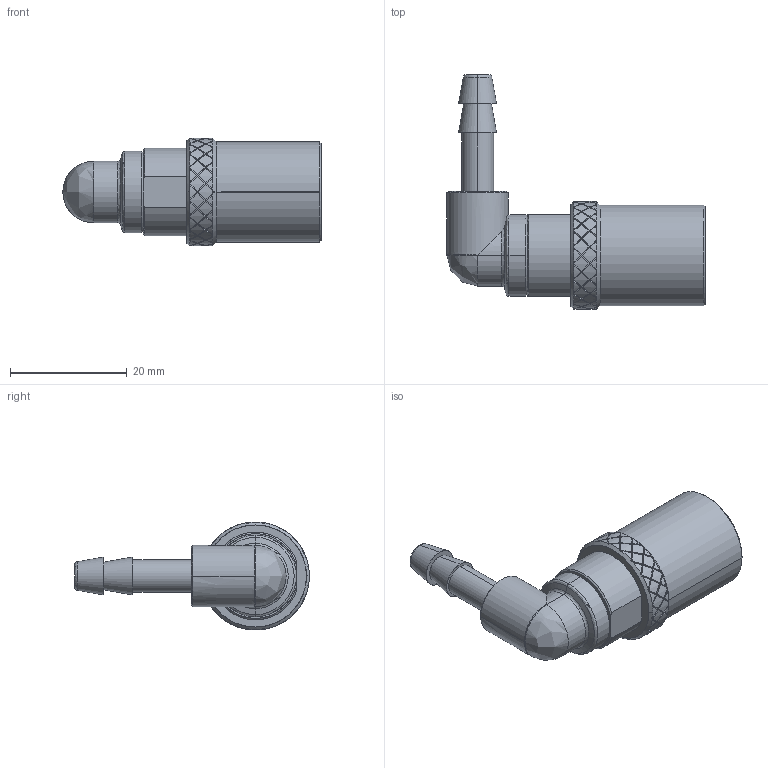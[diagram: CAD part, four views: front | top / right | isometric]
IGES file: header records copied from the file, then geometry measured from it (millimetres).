
Start section: SolidWorks IGES file using analytic representation for surfaces
Global section: file name: K:\Disegni Esecutivi\SERIE 400-500\ASSIEMI\436\436_iges\0043600001A.IGS; native system: SolidWorks 2011; preprocessor: SolidWorks 2011; author: cad05; date: 110921.114137; units: millimetre
Bounding box: 44.25 x 40.25 x 18.5 mm (x, y, z)
Surface area: 3185 mm2 (no closed solid volume)
Topology: 0 solids, 0 shells, 459 faces, 2805 edges, 2805 vertices
Faces by surface type: bspline 340, revolution 119
